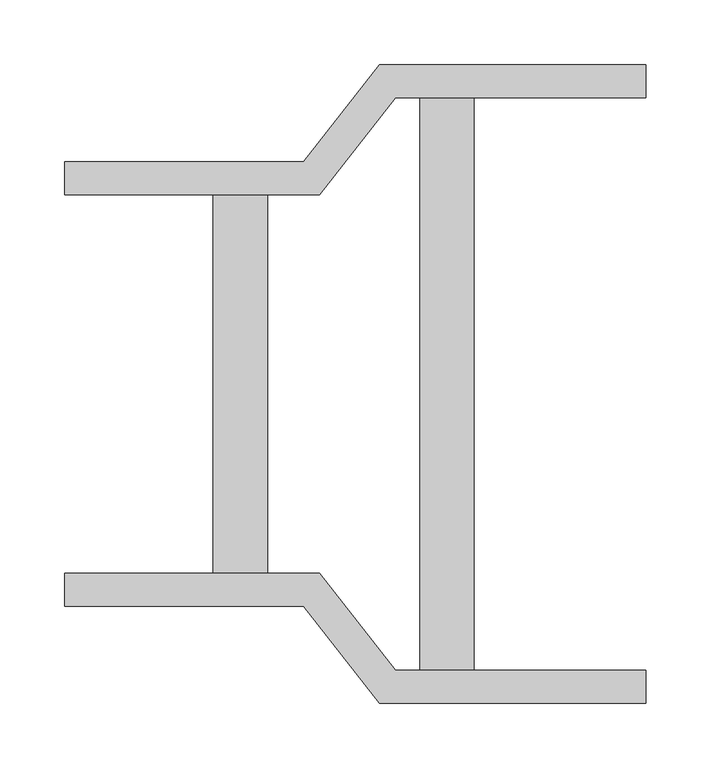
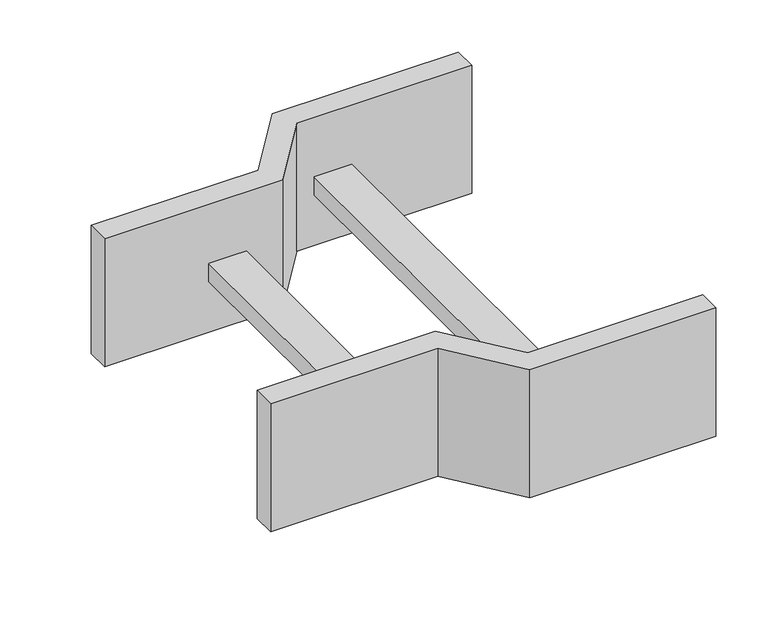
"""IFC4 building model written with IfcOpenShell, lengths in millimetres: cable carrier fitting geometry, Legrand_CableLadder_Swifts_Emerald_Reducer-13 : Straight - Hot Dip Galvanised (after manufacture)."""

import ifcopenshell
import ifcopenshell.guid

model = None  # the IFC model being written
_history = None  # IfcOwnerHistory: only IFC2X3 demands one
_inside = {}  # id of a spatial element -> (the spatial element, [elements in it])
_under = {}  # id of a project, library or spatial element -> (it, [spatial elements below it])
_declared = {}  # id of a project -> (the project, [libraries it declares])
_typed = {}  # id of a type object -> (the type object, [elements of that type])
_made_of = {}  # id of a material, layer set ... -> (it, [elements and type objects made of it])


def new_model(schema):
    """Start an empty IFC model of exactly this schema.

    Asked for "IFC4X3", IfcOpenShell would pick the latest addendum, in which some entities
    have other attributes; the version numbers below select the first issue.
    IFC2X3 requires an IfcOwnerHistory on every rooted entity: one is made here for all.
    """
    global model, _history
    if schema == "IFC4X3":
        model = ifcopenshell.file(schema_version=(4, 3, 0, 0))
    else:
        model = ifcopenshell.file(schema=schema)
    _inside.clear()
    _under.clear()
    _declared.clear()
    _typed.clear()
    _made_of.clear()
    _history = None
    if model.schema == "IFC2X3":
        org = make("IfcOrganization", Name="unknown")
        user = make(
            "IfcPersonAndOrganization",
            ThePerson=make("IfcPerson", FamilyName="unknown"),
            TheOrganization=org,
        )
        app = make(
            "IfcApplication",
            ApplicationDeveloper=org,
            Version="unknown",
            ApplicationFullName="unknown",
            ApplicationIdentifier="unknown",
        )
        _history = make(
            "IfcOwnerHistory",
            OwningUser=user,
            OwningApplication=app,
            ChangeAction="ADDED",
            CreationDate=0,
        )
    return model


def make(cls, **values):
    """One entity of the class cls with the attributes given. An attribute that is None is left unset."""
    return model.create_entity(
        cls, **{name: value for name, value in values.items() if value is not None}
    )


def rooted(cls, **values):
    """An entity with a GlobalId (a new one), such as an element, a storey or a relation."""
    return make(cls, GlobalId=ifcopenshell.guid.new(), OwnerHistory=_history, **values)


def si_unit(unit_type, name, prefix=None):
    """IfcSIUnit, for example si_unit("LENGTHUNIT", "METRE", prefix="MILLI")."""
    return make("IfcSIUnit", UnitType=unit_type, Prefix=prefix, Name=name)


def assignment(units):
    """IfcUnitAssignment: the units of a project."""
    return None if units is None else make("IfcUnitAssignment", Units=units)


def point(xyz):
    """IfcCartesianPoint."""
    return None if xyz is None else make("IfcCartesianPoint", Coordinates=xyz)


def direction(xyz):
    """IfcDirection."""
    return None if xyz is None else make("IfcDirection", DirectionRatios=xyz)


def frame(location, z_axis=None, x_axis=None):
    """IfcAxis2Placement3D, a coordinate frame: its origin and axes. An axis left out is left unset."""
    return make(
        "IfcAxis2Placement3D",
        Location=point(location),
        Axis=direction(z_axis),
        RefDirection=direction(x_axis),
    )


def origin():
    """The frame at (0, 0, 0) with its axes left unset."""
    return frame((0.0, 0.0, 0.0))


def place(relative_to, where):
    """IfcLocalPlacement: puts the frame where relative to a parent placement (None: the world)."""
    return make(
        "IfcLocalPlacement", PlacementRelTo=relative_to, RelativePlacement=where
    )


def context(
    kind, dimensions, precision=None, world=None, true_north=None, identifier=None
):
    """IfcGeometricRepresentationContext, for example the 3D "Model" context."""
    return make(
        "IfcGeometricRepresentationContext",
        ContextIdentifier=identifier,
        ContextType=kind,
        CoordinateSpaceDimension=dimensions,
        Precision=precision,
        WorldCoordinateSystem=world,
        TrueNorth=true_north,
    )


def project(units=None, contexts=None):
    """IfcProject with its units and contexts."""
    return rooted(
        "IfcProject",
        Name="project",
        RepresentationContexts=contexts,
        UnitsInContext=assignment(units),
    )


def spatial(cls, under=None, at=None, **own):
    """A site, building, storey or space (cls), placed at a placement, below another one or the project."""
    s = rooted(cls, ObjectPlacement=at, **own)
    if under is not None:
        _under.setdefault(under.id(), (under, []))[1].append(s)
    return s


def polyline(points):
    """IfcPolyline through the points."""
    return make("IfcPolyline", Points=[point(p) for p in points])


def outline(outer, holes=None, kind="AREA"):
    """IfcArbitraryClosedProfileDef: a profile drawn as a closed curve; with holes, ...WithVoids."""
    if holes is None:
        return make("IfcArbitraryClosedProfileDef", ProfileType=kind, OuterCurve=outer)
    return make(
        "IfcArbitraryProfileDefWithVoids",
        ProfileType=kind,
        OuterCurve=outer,
        InnerCurves=holes,
    )


def extrude(swept, where, along, depth):
    """IfcExtrudedAreaSolid: the profile swept, set in the frame where, extruded along a direction by depth."""
    return make(
        "IfcExtrudedAreaSolid",
        SweptArea=swept,
        Position=where,
        ExtrudedDirection=direction(along),
        Depth=depth,
    )


def shape(context_of_items, identifier, shape_type, items):
    """IfcShapeRepresentation: the items that make up one representation, for example the "Body"."""
    return make(
        "IfcShapeRepresentation",
        ContextOfItems=context_of_items,
        RepresentationIdentifier=identifier,
        RepresentationType=shape_type,
        Items=items,
    )


def source(mapping_origin, context_of_items, identifier, shape_type, items):
    """IfcRepresentationMap: a shape defined once, which mapped items show again and again."""
    return make(
        "IfcRepresentationMap",
        MappingOrigin=mapping_origin,
        MappedRepresentation=shape(context_of_items, identifier, shape_type, items),
    )


def transform(
    local_origin,
    x_axis=None,
    y_axis=None,
    z_axis=None,
    scale=None,
    scale2=None,
    scale3=None,
    uniform=True,
):
    """IfcCartesianTransformationOperator3D, or its non-uniform kind. x_axis, y_axis, z_axis: its Axis1, 2, 3."""
    if uniform:
        return make(
            "IfcCartesianTransformationOperator3D",
            Axis1=direction(x_axis),
            Axis2=direction(y_axis),
            LocalOrigin=point(local_origin),
            Scale=scale,
            Axis3=direction(z_axis),
        )
    return make(
        "IfcCartesianTransformationOperator3DnonUniform",
        Axis1=direction(x_axis),
        Axis2=direction(y_axis),
        LocalOrigin=point(local_origin),
        Scale=scale,
        Axis3=direction(z_axis),
        Scale2=scale2,
        Scale3=scale3,
    )


def mapped(mapping_source, mapping_target):
    """IfcMappedItem: shows the shape of a source again, moved by a transform."""
    return make(
        "IfcMappedItem", MappingSource=mapping_source, MappingTarget=mapping_target
    )


def made_of(thing, what):
    """Note that an element or type object is made of a material, layer set ...; save() writes the relation."""
    if what is not None:
        _made_of.setdefault(what.id(), (what, []))[1].append(thing)
    return thing


def element(
    cls,
    number,
    at=None,
    inside=None,
    cuts=None,
    type_object=None,
    material=None,
    context=None,
    identifier="Body",
    shape_type=None,
    held_by="IfcProductDefinitionShape",
    body=None,
    shapes=None,
    **own,
):
    """One element of the class cls, such as IfcWall. Its Tag is "e" and its number.

    at: its placement. inside: the storey or other place that contains it. cuts: it is an
    opening in that element (IfcRelVoidsElement). A single representation is given by context,
    identifier, shape_type and body (its items); several are given by shapes. held_by: the class
    of the entity that holds the representations. save() writes the other relations.
    """
    e = rooted(cls, Tag="e%d" % number, ObjectPlacement=at, **own)
    if body is not None:
        shapes = [shape(context, identifier, shape_type, body)]
    if shapes is not None:
        e.Representation = make(held_by, Representations=shapes)
    if inside is not None:
        _inside.setdefault(inside.id(), (inside, []))[1].append(e)
    if cuts is not None:
        rooted(
            "IfcRelVoidsElement", RelatingBuildingElement=cuts, RelatedOpeningElement=e
        )
    if type_object is not None:
        _typed.setdefault(type_object.id(), (type_object, []))[1].append(e)
    return made_of(e, material)


def aggregate(whole, parts):
    """IfcRelAggregates: a whole, such as a stair, and the parts it consists of."""
    return rooted("IfcRelAggregates", RelatingObject=whole, RelatedObjects=parts)


def save(model, path):
    """Write the relations noted so far, then the file.

    IfcRelAggregates (storeys below a building ...), IfcRelContainedInSpatialStructure (elements
    in a storey), IfcRelDefinesByType, IfcRelAssociatesMaterial and IfcRelDeclares: one each for
    every whole, place, type object, material and project.
    """
    for whole, parts in _under.values():
        aggregate(whole, parts)
    for where, things in _inside.values():
        rooted(
            "IfcRelContainedInSpatialStructure",
            RelatedElements=things,
            RelatingStructure=where,
        )
    for kind, things in _typed.values():
        rooted("IfcRelDefinesByType", RelatedObjects=things, RelatingType=kind)
    for what, things in _made_of.values():
        rooted("IfcRelAssociatesMaterial", RelatedObjects=things, RelatingMaterial=what)
    for by, libraries in _declared.values():
        rooted("IfcRelDeclares", RelatingContext=by, RelatedDefinitions=libraries)
    model.write(path)


def cable_carrier_fitting_c8b575a0(model_context):
    return source(origin(), model_context, "Body", "SweptSolid", [
        extrude(outline(polyline([(-225.0, 146.5), (-225.0, 172.0), (-40.030989, 172.0), (18.7964757, 247.0), (225.0, 247.0), (225.0, 221.5), (31.2035243, 221.5), (-27.6239404, 146.5), (-225.0, 146.5)])), frame((0.0, 0.0, -75.0), z_axis=(0.0, 0.0, 1.0), x_axis=(1.0, 0.0, 0.0)), (0.0, 0.0, 1.0), 150.0),
        extrude(outline(polyline([(-225.0, -172.0), (-225.0, -146.5), (-27.6239404, -146.5), (31.2035243, -221.5), (225.0, -221.5), (225.0, -247.0), (18.7964757, -247.0), (-40.030989, -172.0), (-225.0, -172.0)])), frame((0.0, 0.0, -75.0), z_axis=(0.0, 0.0, 1.0), x_axis=(1.0, 0.0, 0.0)), (0.0, 0.0, 1.0), 150.0),
        extrude(outline(polyline([(92.0, 221.5), (92.0, -221.5), (50.0, -221.5), (50.0, 221.5), (92.0, 221.5)])), frame((0.0, 0.0, -15.0), z_axis=(0.0, 0.0, 1.0), x_axis=(1.0, 0.0, 0.0)), (0.0, 0.0, 1.0), 21.0),
        extrude(outline(polyline([(-110.0, -146.5), (-110.0, 146.5), (-68.0, 146.5), (-68.0, -146.5), (-110.0, -146.5)])), frame((0.0, 0.0, -15.0), z_axis=(0.0, 0.0, 1.0), x_axis=(1.0, 0.0, 0.0)), (0.0, 0.0, 1.0), 21.0),
    ])


if __name__ == "__main__":
    model = new_model("IFC4")
    model_context = context("Model", 3, world=origin())
    ifc_project = project(units=[si_unit("LENGTHUNIT", "METRE", prefix="MILLI")], contexts=[model_context])
    site = spatial("IfcSite", under=ifc_project)
    building = spatial("IfcBuilding", under=site)
    placement = place(None, origin())
    cable_carrier_fitting_shape = cable_carrier_fitting_c8b575a0(model_context)
    element("IfcCableCarrierFitting", 1, ObjectType="Legrand_CableLadder_Swifts_Emerald_Reducer-13 : Straight - Hot Dip Galvanised (after manufacture)", at=placement, inside=building, context=model_context, shape_type="MappedRepresentation", body=[
        mapped(cable_carrier_fitting_shape, transform((0.0, 0.0, 0.0), x_axis=(1.0, 0.0, 0.0), y_axis=(0.0, 1.0, 0.0), z_axis=(0.0, 0.0, 1.0))),
    ])
    save(model, "model.ifc")
